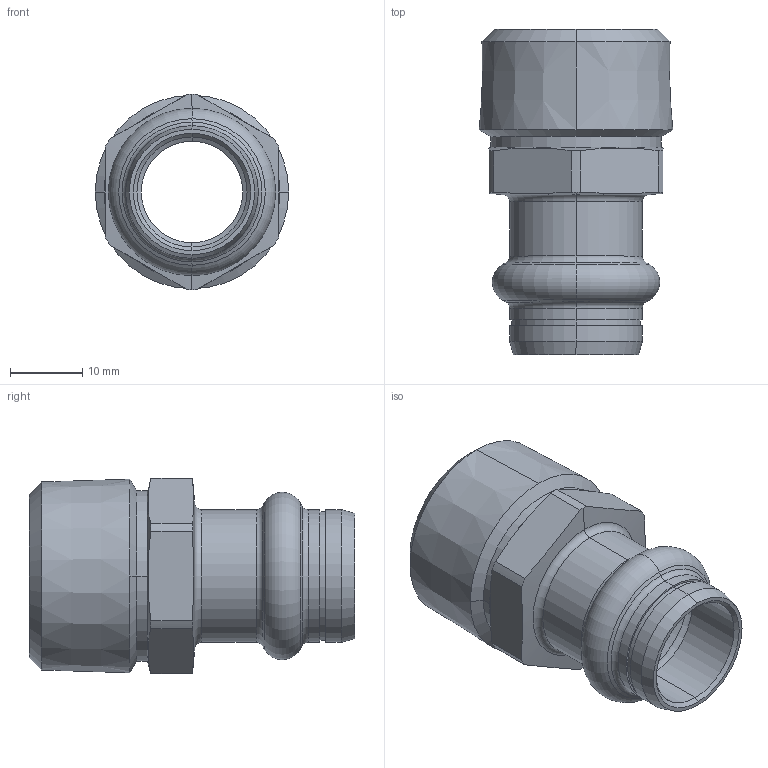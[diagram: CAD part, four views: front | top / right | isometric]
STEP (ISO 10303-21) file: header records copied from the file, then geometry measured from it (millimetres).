
FILE_DESCRIPTION (( 'STEP AP203' ), '1' );
FILE_NAME ('SP4243G Ø15 3-4.STEP', '2017-04-26T07:42:56', ( '' ), ( '' ), 'SwSTEP 2.0', 'SolidWorks 2016', '' );
FILE_SCHEMA (( 'CONFIG_CONTROL_DESIGN' ));
Length unit declared in the file: millimetre
Products named in the file (1): SP4243G Ø15 3-4
Bounding box: 26.71 x 44.9 x 27 mm (x, y, z)
Volume: 7021.4 mm3; surface area: 6599 mm2
Topology: 1 solids, 1 shells, 76 faces, 174 edges, 103 vertices
Faces by surface type: cylinder 25, cone 24, plane 17, torus 10
Entity records: 2260 total; most frequent: CARTESIAN_POINT 428, DIRECTION 405, ORIENTED_EDGE 348, EDGE_CURVE 174, AXIS2_PLACEMENT_3D 172, VERTEX_POINT 103, CIRCLE 95, EDGE_LOOP 81
